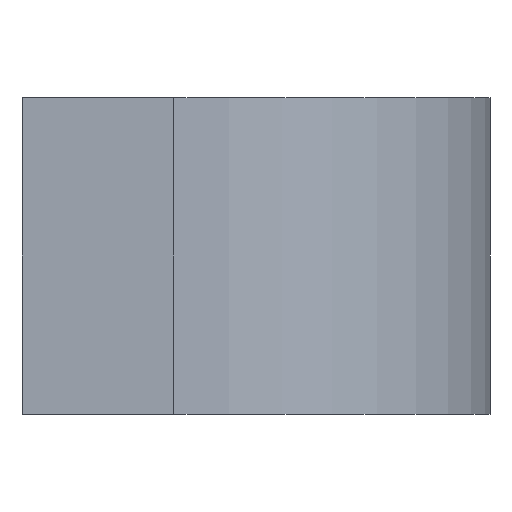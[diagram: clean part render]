
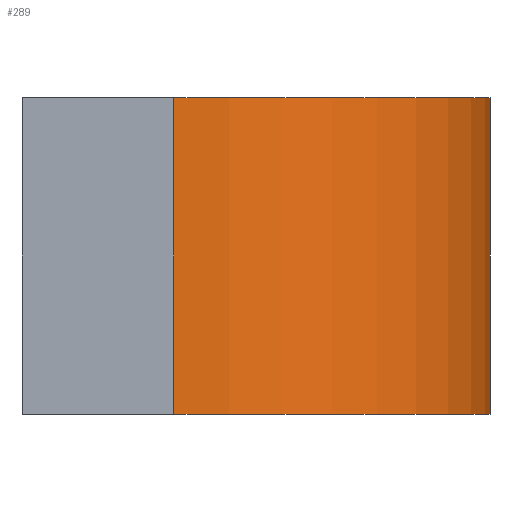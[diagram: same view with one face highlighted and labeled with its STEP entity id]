
A CAD part, left-side view. The second image highlights one B-rep face of the part: STEP entity #289.
In plain terms, the highlighted cylindrical face has radius 1 mm (diameter 2 mm), a partial arc.
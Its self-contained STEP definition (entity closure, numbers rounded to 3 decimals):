
#72 = PLANE('',#73);
#73 = AXIS2_PLACEMENT_3D('',#74,#75,#76);
#74 = CARTESIAN_POINT('',(0.,-0.376,1.));
#75 = DIRECTION('',(0.,0.,1.));
#76 = DIRECTION('',(1.,0.,0.));
#126 = PLANE('',#127);
#127 = AXIS2_PLACEMENT_3D('',#128,#129,#130);
#128 = CARTESIAN_POINT('',(0.,-0.376,0.));
#129 = DIRECTION('',(0.,0.,1.));
#130 = DIRECTION('',(1.,0.,0.));
#181 = PLANE('',#182);
#182 = AXIS2_PLACEMENT_3D('',#183,#184,#185);
#183 = CARTESIAN_POINT('',(1.6,-0.38,0.));
#184 = DIRECTION('',(0.,-1.,0.));
#185 = DIRECTION('',(-1.,0.,0.));
#219 = VERTEX_POINT('',#220);
#220 = CARTESIAN_POINT('',(1.,-0.38,1.));
#241 = EDGE_CURVE('',#242,#219,#244,.T.);
#242 = VERTEX_POINT('',#243);
#243 = CARTESIAN_POINT('',(1.,-0.38,0.));
#244 = SURFACE_CURVE('',#245,(#249,#256),.PCURVE_S1.);
#245 = LINE('',#246,#247);
#246 = CARTESIAN_POINT('',(1.,-0.38,0.));
#247 = VECTOR('',#248,1.);
#248 = DIRECTION('',(0.,0.,1.));
#249 = PCURVE('',#181,#250);
#250 = DEFINITIONAL_REPRESENTATION('',(#251),#255);
#251 = LINE('',#252,#253);
#252 = CARTESIAN_POINT('',(0.6,0.));
#253 = VECTOR('',#254,1.);
#254 = DIRECTION('',(0.,-1.));
#255 = ( GEOMETRIC_REPRESENTATION_CONTEXT(2) 
PARAMETRIC_REPRESENTATION_CONTEXT() REPRESENTATION_CONTEXT('2D SPACE',''
  ) );
#256 = PCURVE('',#257,#262);
#257 = CYLINDRICAL_SURFACE('',#258,1.);
#258 = AXIS2_PLACEMENT_3D('',#259,#260,#261);
#259 = CARTESIAN_POINT('',(0.,-0.38,0.));
#260 = DIRECTION('',(-0.,-0.,-1.));
#261 = DIRECTION('',(1.,0.,0.));
#262 = DEFINITIONAL_REPRESENTATION('',(#263),#267);
#263 = LINE('',#264,#265);
#264 = CARTESIAN_POINT('',(-6.283,0.));
#265 = VECTOR('',#266,1.);
#266 = DIRECTION('',(-0.,-1.));
#267 = ( GEOMETRIC_REPRESENTATION_CONTEXT(2) 
PARAMETRIC_REPRESENTATION_CONTEXT() REPRESENTATION_CONTEXT('2D SPACE',''
  ) );
#289 = ADVANCED_FACE('',(#290),#257,.T.);
#290 = FACE_BOUND('',#291,.F.);
#291 = EDGE_LOOP('',(#292,#322,#344,#345));
#292 = ORIENTED_EDGE('',*,*,#293,.T.);
#293 = EDGE_CURVE('',#294,#296,#298,.T.);
#294 = VERTEX_POINT('',#295);
#295 = CARTESIAN_POINT('',(-1.,-0.38,0.));
#296 = VERTEX_POINT('',#297);
#297 = CARTESIAN_POINT('',(-1.,-0.38,1.));
#298 = SURFACE_CURVE('',#299,(#303,#310),.PCURVE_S1.);
#299 = LINE('',#300,#301);
#300 = CARTESIAN_POINT('',(-1.,-0.38,0.));
#301 = VECTOR('',#302,1.);
#302 = DIRECTION('',(0.,0.,1.));
#303 = PCURVE('',#257,#304);
#304 = DEFINITIONAL_REPRESENTATION('',(#305),#309);
#305 = LINE('',#306,#307);
#306 = CARTESIAN_POINT('',(-3.142,0.));
#307 = VECTOR('',#308,1.);
#308 = DIRECTION('',(-0.,-1.));
#309 = ( GEOMETRIC_REPRESENTATION_CONTEXT(2) 
PARAMETRIC_REPRESENTATION_CONTEXT() REPRESENTATION_CONTEXT('2D SPACE',''
  ) );
#310 = PCURVE('',#311,#316);
#311 = PLANE('',#312);
#312 = AXIS2_PLACEMENT_3D('',#313,#314,#315);
#313 = CARTESIAN_POINT('',(-1.,-0.38,0.));
#314 = DIRECTION('',(0.,-1.,0.));
#315 = DIRECTION('',(-1.,0.,0.));
#316 = DEFINITIONAL_REPRESENTATION('',(#317),#321);
#317 = LINE('',#318,#319);
#318 = CARTESIAN_POINT('',(0.,-0.));
#319 = VECTOR('',#320,1.);
#320 = DIRECTION('',(0.,-1.));
#321 = ( GEOMETRIC_REPRESENTATION_CONTEXT(2) 
PARAMETRIC_REPRESENTATION_CONTEXT() REPRESENTATION_CONTEXT('2D SPACE',''
  ) );
#322 = ORIENTED_EDGE('',*,*,#323,.T.);
#323 = EDGE_CURVE('',#296,#219,#324,.T.);
#324 = SURFACE_CURVE('',#325,(#330,#337),.PCURVE_S1.);
#325 = CIRCLE('',#326,1.);
#326 = AXIS2_PLACEMENT_3D('',#327,#328,#329);
#327 = CARTESIAN_POINT('',(0.,-0.38,1.));
#328 = DIRECTION('',(0.,0.,1.));
#329 = DIRECTION('',(1.,0.,0.));
#330 = PCURVE('',#257,#331);
#331 = DEFINITIONAL_REPRESENTATION('',(#332),#336);
#332 = LINE('',#333,#334);
#333 = CARTESIAN_POINT('',(-0.,-1.));
#334 = VECTOR('',#335,1.);
#335 = DIRECTION('',(-1.,0.));
#336 = ( GEOMETRIC_REPRESENTATION_CONTEXT(2) 
PARAMETRIC_REPRESENTATION_CONTEXT() REPRESENTATION_CONTEXT('2D SPACE',''
  ) );
#337 = PCURVE('',#72,#338);
#338 = DEFINITIONAL_REPRESENTATION('',(#339),#343);
#339 = CIRCLE('',#340,1.);
#340 = AXIS2_PLACEMENT_2D('',#341,#342);
#341 = CARTESIAN_POINT('',(0.,-0.004));
#342 = DIRECTION('',(1.,0.));
#343 = ( GEOMETRIC_REPRESENTATION_CONTEXT(2) 
PARAMETRIC_REPRESENTATION_CONTEXT() REPRESENTATION_CONTEXT('2D SPACE',''
  ) );
#344 = ORIENTED_EDGE('',*,*,#241,.F.);
#345 = ORIENTED_EDGE('',*,*,#346,.F.);
#346 = EDGE_CURVE('',#294,#242,#347,.T.);
#347 = SURFACE_CURVE('',#348,(#353,#360),.PCURVE_S1.);
#348 = CIRCLE('',#349,1.);
#349 = AXIS2_PLACEMENT_3D('',#350,#351,#352);
#350 = CARTESIAN_POINT('',(0.,-0.38,0.));
#351 = DIRECTION('',(0.,0.,1.));
#352 = DIRECTION('',(1.,0.,0.));
#353 = PCURVE('',#257,#354);
#354 = DEFINITIONAL_REPRESENTATION('',(#355),#359);
#355 = LINE('',#356,#357);
#356 = CARTESIAN_POINT('',(-0.,0.));
#357 = VECTOR('',#358,1.);
#358 = DIRECTION('',(-1.,0.));
#359 = ( GEOMETRIC_REPRESENTATION_CONTEXT(2) 
PARAMETRIC_REPRESENTATION_CONTEXT() REPRESENTATION_CONTEXT('2D SPACE',''
  ) );
#360 = PCURVE('',#126,#361);
#361 = DEFINITIONAL_REPRESENTATION('',(#362),#366);
#362 = CIRCLE('',#363,1.);
#363 = AXIS2_PLACEMENT_2D('',#364,#365);
#364 = CARTESIAN_POINT('',(0.,-0.004));
#365 = DIRECTION('',(1.,0.));
#366 = ( GEOMETRIC_REPRESENTATION_CONTEXT(2) 
PARAMETRIC_REPRESENTATION_CONTEXT() REPRESENTATION_CONTEXT('2D SPACE',''
  ) );
